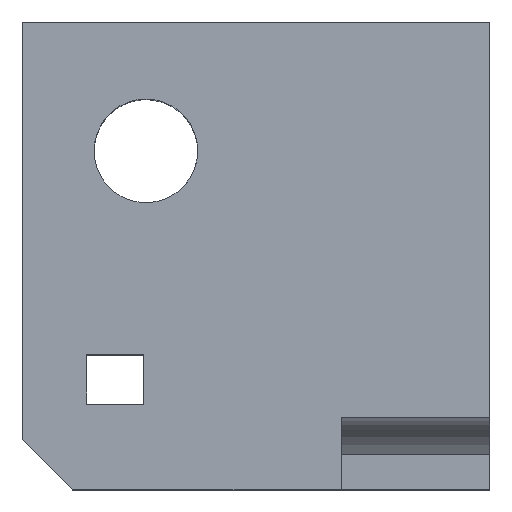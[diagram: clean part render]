
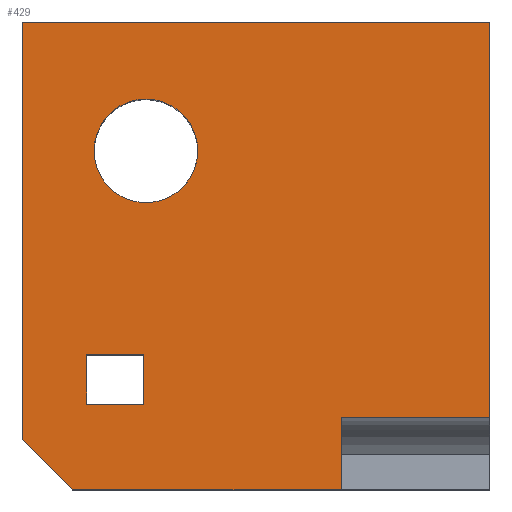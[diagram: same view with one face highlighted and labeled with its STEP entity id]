
A CAD part, top view. The second image highlights one B-rep face of the part: STEP entity #429.
In plain terms, the highlighted planar face has unit normal (0, 0, 1).
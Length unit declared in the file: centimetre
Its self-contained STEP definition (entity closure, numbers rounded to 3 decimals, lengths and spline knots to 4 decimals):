
#5 = CARTESIAN_POINT ( 'NONE',  ( 1000., 1000., 1000. ) ) ;
#20 = VERTEX_POINT ( 'NONE', #799 ) ;
#34 = EDGE_CURVE ( 'NONE', #266, #20, #283, .T. ) ;
#45 = DIRECTION ( 'NONE',  ( 0., 1., 0. ) ) ;
#51 = EDGE_LOOP ( 'NONE', ( #110, #533, #471, #883, #335, #1036, #286 ) ) ;
#71 = LINE ( 'NONE', #885, #223 ) ;
#75 = VERTEX_POINT ( 'NONE', #791 ) ;
#84 = CARTESIAN_POINT ( 'NONE',  ( 137.8866, 289.1365, 1000. ) ) ;
#110 = ORIENTED_EDGE ( 'NONE', *, *, #1006, .F. ) ;
#112 = CARTESIAN_POINT ( 'NONE',  ( 53.9771, 53.9771, 1000. ) ) ;
#115 = VERTEX_POINT ( 'NONE', #232 ) ;
#143 = VERTEX_POINT ( 'NONE', #722 ) ;
#164 = LINE ( 'NONE', #583, #309 ) ;
#169 = CARTESIAN_POINT ( 'NONE',  ( 259.9138, 289.1365, 1000. ) ) ;
#170 = EDGE_LOOP ( 'NONE', ( #596, #543 ) ) ;
#172 = FACE_BOUND ( 'NONE', #170, .T. ) ;
#190 = VERTEX_POINT ( 'NONE', #239 ) ;
#192 = CARTESIAN_POINT ( 'NONE',  ( 264.598, 724.5159, 1000. ) ) ;
#199 = ORIENTED_EDGE ( 'NONE', *, *, #34, .T. ) ;
#204 = DIRECTION ( 'NONE',  ( 1., 0., 0. ) ) ;
#220 = EDGE_CURVE ( 'NONE', #190, #143, #494, .T. ) ;
#223 = VECTOR ( 'NONE', #788, 100. ) ;
#231 = DIRECTION ( 'NONE',  ( -1., 0., 0. ) ) ;
#232 = CARTESIAN_POINT ( 'NONE',  ( 153.826, 724.5159, 1000. ) ) ;
#235 = EDGE_CURVE ( 'NONE', #357, #306, #482, .T. ) ;
#239 = CARTESIAN_POINT ( 'NONE',  ( 0., 1000., 1000. ) ) ;
#248 = DIRECTION ( 'NONE',  ( 1., 0., 0. ) ) ;
#254 = CARTESIAN_POINT ( 'NONE',  ( 682.2656, 0., 1000. ) ) ;
#266 = VERTEX_POINT ( 'NONE', #169 ) ;
#275 = CARTESIAN_POINT ( 'NONE',  ( 264.598, 724.5159, 1000. ) ) ;
#282 = VECTOR ( 'NONE', #771, 100. ) ;
#283 = LINE ( 'NONE', #887, #434 ) ;
#286 = ORIENTED_EDGE ( 'NONE', *, *, #235, .T. ) ;
#288 = CARTESIAN_POINT ( 'NONE',  ( 137.8866, 182.9548, 1000. ) ) ;
#289 = EDGE_CURVE ( 'NONE', #371, #357, #570, .T. ) ;
#306 = VERTEX_POINT ( 'NONE', #996 ) ;
#309 = VECTOR ( 'NONE', #650, 100. ) ;
#328 = VECTOR ( 'NONE', #45, 100. ) ;
#329 = CARTESIAN_POINT ( 'NONE',  ( 137.8866, 289.1365, 1000. ) ) ;
#335 = ORIENTED_EDGE ( 'NONE', *, *, #473, .T. ) ;
#357 = VERTEX_POINT ( 'NONE', #492 ) ;
#371 = VERTEX_POINT ( 'NONE', #820 ) ;
#380 = EDGE_LOOP ( 'NONE', ( #595, #465, #199, #542 ) ) ;
#395 = LINE ( 'NONE', #720, #447 ) ;
#397 = EDGE_CURVE ( 'NONE', #1026, #266, #1070, .T. ) ;
#425 = PLANE ( 'NONE',  #1031 ) ;
#429 = ADVANCED_FACE ( 'NONE', ( #666, #172, #502 ), #425, .T. ) ;
#434 = VECTOR ( 'NONE', #945, 100. ) ;
#447 = VECTOR ( 'NONE', #523, 100. ) ;
#465 = ORIENTED_EDGE ( 'NONE', *, *, #397, .T. ) ;
#471 = ORIENTED_EDGE ( 'NONE', *, *, #840, .T. ) ;
#473 = EDGE_CURVE ( 'NONE', #143, #371, #602, .T. ) ;
#482 = LINE ( 'NONE', #254, #932 ) ;
#490 = EDGE_CURVE ( 'NONE', #939, #115, #569, .T. ) ;
#492 = CARTESIAN_POINT ( 'NONE',  ( 682.2656, 0., 1000. ) ) ;
#494 = LINE ( 'NONE', #565, #532 ) ;
#502 = FACE_BOUND ( 'NONE', #380, .T. ) ;
#505 = DIRECTION ( 'NONE',  ( 1., 0., 0. ) ) ;
#506 = DIRECTION ( 'NONE',  ( 1., 0., 0. ) ) ;
#523 = DIRECTION ( 'NONE',  ( 0., 1., 0. ) ) ;
#532 = VECTOR ( 'NONE', #584, 100. ) ;
#533 = ORIENTED_EDGE ( 'NONE', *, *, #853, .T. ) ;
#542 = ORIENTED_EDGE ( 'NONE', *, *, #824, .T. ) ;
#543 = ORIENTED_EDGE ( 'NONE', *, *, #587, .F. ) ;
#545 = CARTESIAN_POINT ( 'NONE',  ( 0., 1000., 1000. ) ) ;
#565 = CARTESIAN_POINT ( 'NONE',  ( 0., 1000., 1000. ) ) ;
#569 = CIRCLE ( 'NONE', #670, 110.772 ) ;
#570 = LINE ( 'NONE', #901, #969 ) ;
#580 = DIRECTION ( 'NONE',  ( 0., 1., 0. ) ) ;
#583 = CARTESIAN_POINT ( 'NONE',  ( 682.2656, 154.3525, 1000. ) ) ;
#584 = DIRECTION ( 'NONE',  ( 0., -1., 0. ) ) ;
#587 = EDGE_CURVE ( 'NONE', #115, #939, #684, .T. ) ;
#589 = DIRECTION ( 'NONE',  ( 0., 0., 1. ) ) ;
#595 = ORIENTED_EDGE ( 'NONE', *, *, #662, .T. ) ;
#596 = ORIENTED_EDGE ( 'NONE', *, *, #490, .F. ) ;
#602 = LINE ( 'NONE', #112, #282 ) ;
#650 = DIRECTION ( 'NONE',  ( -1., 0., 0. ) ) ;
#662 = EDGE_CURVE ( 'NONE', #782, #1026, #960, .T. ) ;
#666 = FACE_OUTER_BOUND ( 'NONE', #51, .T. ) ;
#670 = AXIS2_PLACEMENT_3D ( 'NONE', #192, #850, #204 ) ;
#684 = CIRCLE ( 'NONE', #946, 110.772 ) ;
#707 = LINE ( 'NONE', #545, #786 ) ;
#720 = CARTESIAN_POINT ( 'NONE',  ( 1000., 1000., 1000. ) ) ;
#722 = CARTESIAN_POINT ( 'NONE',  ( 0., 107.9543, 1000. ) ) ;
#747 = CARTESIAN_POINT ( 'NONE',  ( 0., 0., 1000. ) ) ;
#767 = DIRECTION ( 'NONE',  ( 0., 0., 1. ) ) ;
#771 = DIRECTION ( 'NONE',  ( 0.707, -0.707, 0. ) ) ;
#775 = DIRECTION ( 'NONE',  ( 1., 0., 0. ) ) ;
#782 = VERTEX_POINT ( 'NONE', #1053 ) ;
#786 = VECTOR ( 'NONE', #231, 100. ) ;
#788 = DIRECTION ( 'NONE',  ( -1., 0., 0. ) ) ;
#791 = CARTESIAN_POINT ( 'NONE',  ( 1000., 154.3525, 1000. ) ) ;
#799 = CARTESIAN_POINT ( 'NONE',  ( 259.9138, 182.9548, 1000. ) ) ;
#820 = CARTESIAN_POINT ( 'NONE',  ( 107.9543, 0., 1000. ) ) ;
#824 = EDGE_CURVE ( 'NONE', #20, #782, #71, .T. ) ;
#840 = EDGE_CURVE ( 'NONE', #1049, #190, #707, .T. ) ;
#850 = DIRECTION ( 'NONE',  ( 0., 0., 1. ) ) ;
#853 = EDGE_CURVE ( 'NONE', #75, #1049, #395, .T. ) ;
#883 = ORIENTED_EDGE ( 'NONE', *, *, #220, .T. ) ;
#885 = CARTESIAN_POINT ( 'NONE',  ( 137.8866, 182.9548, 1000. ) ) ;
#887 = CARTESIAN_POINT ( 'NONE',  ( 259.9138, 182.9548, 1000. ) ) ;
#901 = CARTESIAN_POINT ( 'NONE',  ( 0., 0., 1000. ) ) ;
#932 = VECTOR ( 'NONE', #580, 100. ) ;
#939 = VERTEX_POINT ( 'NONE', #1034 ) ;
#945 = DIRECTION ( 'NONE',  ( 0., -1., 0. ) ) ;
#946 = AXIS2_PLACEMENT_3D ( 'NONE', #275, #767, #775 ) ;
#960 = LINE ( 'NONE', #288, #328 ) ;
#966 = VECTOR ( 'NONE', #248, 100. ) ;
#969 = VECTOR ( 'NONE', #505, 100. ) ;
#996 = CARTESIAN_POINT ( 'NONE',  ( 682.2656, 154.3525, 1000. ) ) ;
#1006 = EDGE_CURVE ( 'NONE', #75, #306, #164, .T. ) ;
#1026 = VERTEX_POINT ( 'NONE', #84 ) ;
#1031 = AXIS2_PLACEMENT_3D ( 'NONE', #747, #589, #506 ) ;
#1034 = CARTESIAN_POINT ( 'NONE',  ( 375.3701, 724.5159, 1000. ) ) ;
#1036 = ORIENTED_EDGE ( 'NONE', *, *, #289, .T. ) ;
#1049 = VERTEX_POINT ( 'NONE', #5 ) ;
#1053 = CARTESIAN_POINT ( 'NONE',  ( 137.8866, 182.9548, 1000. ) ) ;
#1070 = LINE ( 'NONE', #329, #966 ) ;
